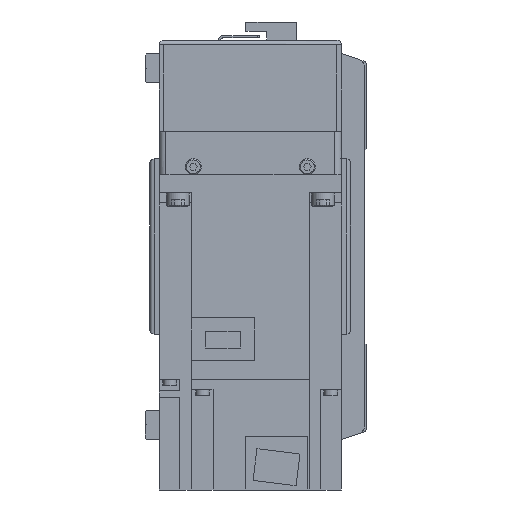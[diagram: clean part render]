
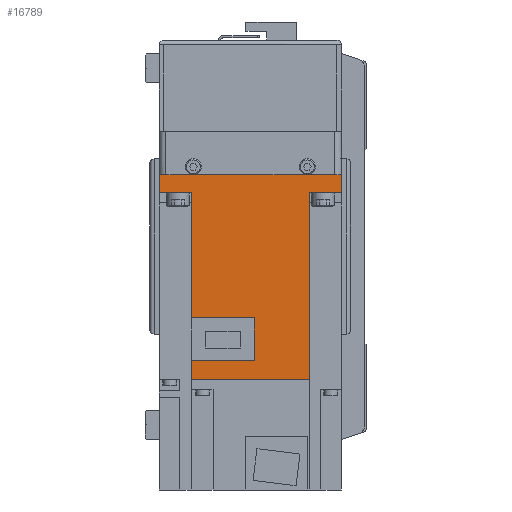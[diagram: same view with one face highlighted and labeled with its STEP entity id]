
A CAD part, left-side view. The second image highlights one B-rep face of the part: STEP entity #16789.
In plain terms, the highlighted planar face has unit normal (-1, 0, 0) as drawn and (1, 0, 0) by its records, which use the part's own axes.
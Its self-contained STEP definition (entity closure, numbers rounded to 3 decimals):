
#1837=ORIENTED_EDGE('',*,*,#6465,.F.);
#1838=ORIENTED_EDGE('',*,*,#6466,.F.);
#1839=ORIENTED_EDGE('',*,*,#6467,.F.);
#1840=ORIENTED_EDGE('',*,*,#6468,.T.);
#1841=ORIENTED_EDGE('',*,*,#6469,.F.);
#1842=ORIENTED_EDGE('',*,*,#6470,.T.);
#1843=ORIENTED_EDGE('',*,*,#6471,.T.);
#1844=ORIENTED_EDGE('',*,*,#6472,.F.);
#1845=ORIENTED_EDGE('',*,*,#6473,.F.);
#1846=ORIENTED_EDGE('',*,*,#6474,.F.);
#1847=ORIENTED_EDGE('',*,*,#6475,.F.);
#1848=ORIENTED_EDGE('',*,*,#6476,.F.);
#6465=EDGE_CURVE('',#8839,#8840,#10501,.T.);
#6466=EDGE_CURVE('',#8841,#8839,#10502,.T.);
#6467=EDGE_CURVE('',#8842,#8841,#10503,.T.);
#6468=EDGE_CURVE('',#8842,#8843,#10504,.T.);
#6469=EDGE_CURVE('',#8844,#8843,#10505,.T.);
#6470=EDGE_CURVE('',#8844,#8845,#10506,.T.);
#6471=EDGE_CURVE('',#8845,#8846,#10507,.T.);
#6472=EDGE_CURVE('',#8847,#8846,#10508,.T.);
#6473=EDGE_CURVE('',#8848,#8847,#10509,.T.);
#6474=EDGE_CURVE('',#8849,#8848,#10510,.T.);
#6475=EDGE_CURVE('',#8850,#8849,#10511,.T.);
#6476=EDGE_CURVE('',#8840,#8850,#10512,.T.);
#8839=VERTEX_POINT('',#25290);
#8840=VERTEX_POINT('',#25291);
#8841=VERTEX_POINT('',#25293);
#8842=VERTEX_POINT('',#25295);
#8843=VERTEX_POINT('',#25297);
#8844=VERTEX_POINT('',#25299);
#8845=VERTEX_POINT('',#25301);
#8846=VERTEX_POINT('',#25303);
#8847=VERTEX_POINT('',#25305);
#8848=VERTEX_POINT('',#25307);
#8849=VERTEX_POINT('',#25309);
#8850=VERTEX_POINT('',#25311);
#10501=LINE('',#25289,#12107);
#10502=LINE('',#25292,#12108);
#10503=LINE('',#25294,#12109);
#10504=LINE('',#25296,#12110);
#10505=LINE('',#25298,#12111);
#10506=LINE('',#25300,#12112);
#10507=LINE('',#25302,#12113);
#10508=LINE('',#25304,#12114);
#10509=LINE('',#25306,#12115);
#10510=LINE('',#25308,#12116);
#10511=LINE('',#25310,#12117);
#10512=LINE('',#25312,#12118);
#12107=VECTOR('',#20157,1000.);
#12108=VECTOR('',#20158,1000.);
#12109=VECTOR('',#20159,1000.);
#12110=VECTOR('',#20160,1000.);
#12111=VECTOR('',#20161,1000.);
#12112=VECTOR('',#20162,1000.);
#12113=VECTOR('',#20163,1000.);
#12114=VECTOR('',#20164,1000.);
#12115=VECTOR('',#20165,1000.);
#12116=VECTOR('',#20166,1000.);
#12117=VECTOR('',#20167,1000.);
#12118=VECTOR('',#20168,1000.);
#13705=EDGE_LOOP('',(#1837,#1838,#1839,#1840,#1841,#1842,#1843,#1844,#1845,
#1846,#1847,#1848));
#14957=FACE_BOUND('',#13705,.T.);
#16102=PLANE('',#17955);
#16789=ADVANCED_FACE('',(#14957),#16102,.F.);
#17955=AXIS2_PLACEMENT_3D('',#25288,#20155,#20156);
#20155=DIRECTION('',(-1.,0.,0.));
#20156=DIRECTION('',(0.,0.,1.));
#20157=DIRECTION('',(0.,0.,1.));
#20158=DIRECTION('',(0.,-1.,0.));
#20159=DIRECTION('',(0.,0.,-1.));
#20160=DIRECTION('',(0.,-1.,0.));
#20161=DIRECTION('',(0.,0.,-1.));
#20162=DIRECTION('',(0.,-1.,0.));
#20163=DIRECTION('',(0.,0.,-1.));
#20164=DIRECTION('',(0.,-1.,0.));
#20165=DIRECTION('',(0.,0.,-1.));
#20166=DIRECTION('',(0.,-1.,0.));
#20167=DIRECTION('',(0.,0.,-1.));
#20168=DIRECTION('',(0.,-1.,0.));
#25288=CARTESIAN_POINT('',(40.,89.8,40.));
#25289=CARTESIAN_POINT('',(40.,81.4,-26.));
#25290=CARTESIAN_POINT('',(40.,81.4,-25.95));
#25291=CARTESIAN_POINT('',(40.,81.4,1.8));
#25292=CARTESIAN_POINT('',(40.,158.,-25.95));
#25293=CARTESIAN_POINT('',(40.,89.8,-25.95));
#25294=CARTESIAN_POINT('',(40.,89.8,40.));
#25295=CARTESIAN_POINT('',(40.,89.8,25.95));
#25296=CARTESIAN_POINT('',(40.,158.,25.95));
#25297=CARTESIAN_POINT('',(40.,8.,25.95));
#25298=CARTESIAN_POINT('',(40.,8.,40.));
#25299=CARTESIAN_POINT('',(40.,8.,40.));
#25300=CARTESIAN_POINT('',(40.,89.8,40.));
#25301=CARTESIAN_POINT('',(40.,0.,40.));
#25302=CARTESIAN_POINT('',(40.,0.,40.));
#25303=CARTESIAN_POINT('',(40.,0.,-40.));
#25304=CARTESIAN_POINT('',(40.,89.8,-40.));
#25305=CARTESIAN_POINT('',(40.,8.,-40.));
#25306=CARTESIAN_POINT('',(40.,8.,40.));
#25307=CARTESIAN_POINT('',(40.,8.,-25.95));
#25308=CARTESIAN_POINT('',(40.,158.,-25.95));
#25309=CARTESIAN_POINT('',(40.,62.8,-25.95));
#25310=CARTESIAN_POINT('',(40.,62.8,1.8));
#25311=CARTESIAN_POINT('',(40.,62.8,1.8));
#25312=CARTESIAN_POINT('',(40.,81.4,1.8));
